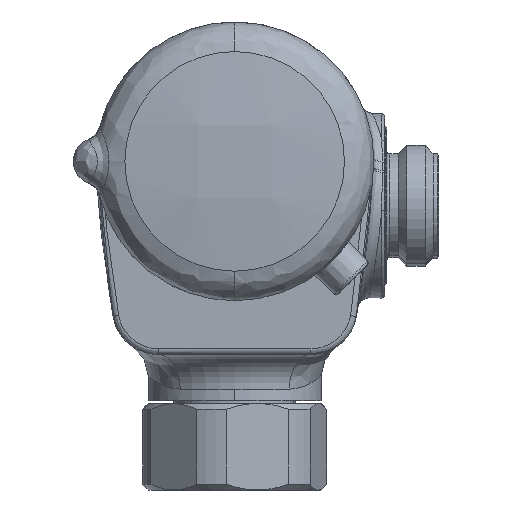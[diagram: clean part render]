
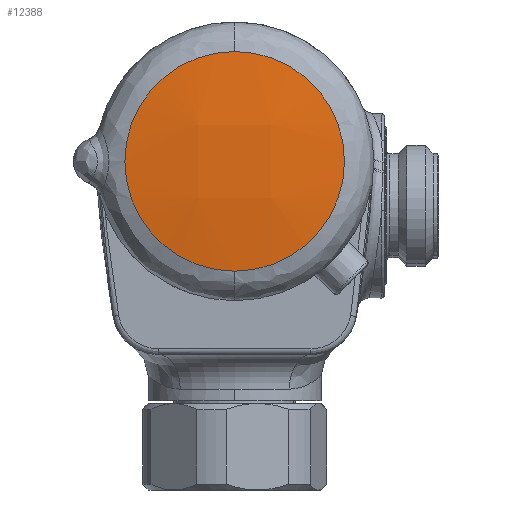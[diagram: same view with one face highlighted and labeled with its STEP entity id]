
A CAD part, left-side view. The second image highlights one B-rep face of the part: STEP entity #12388.
In plain terms, the highlighted free-form (B-spline) face has degree [3, 3] with [4, 4] control points.
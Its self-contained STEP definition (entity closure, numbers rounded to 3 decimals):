
#7 = CARTESIAN_POINT ( 'NONE',  ( -145.73, 6.493, 50.565 ) ) ;
#1073 = DIRECTION ( 'NONE',  ( 1., 0., 0. ) ) ;
#1185 = CARTESIAN_POINT ( 'NONE',  ( -141.864, 19.127, 76.393 ) ) ;
#2184 = DIRECTION ( 'NONE',  ( 0., 0., -1. ) ) ;
#2577 = AXIS2_PLACEMENT_3D ( 'NONE', #13170, #1073, #2184 ) ;
#2889 =( BOUNDED_SURFACE ( )  B_SPLINE_SURFACE ( 3, 3, ( 
 ( #8533, #8681, #10896, #9654 ),
 ( #10748, #8734, #7, #5604 ),
 ( #3359, #12272, #9980, #4392 ),
 ( #6544, #14346, #11090, #1185 ) ),
 .UNSPECIFIED., .F., .F., .T. ) 
 B_SPLINE_SURFACE_WITH_KNOTS ( ( 4, 4 ),
 ( 4, 4 ),
 ( 0., 1. ),
 ( 0., 1. ),
 .UNSPECIFIED. ) 
 GEOMETRIC_REPRESENTATION_ITEM ( )  RATIONAL_B_SPLINE_SURFACE ( (
 ( 1., 0.993, 0.993, 1.),
 ( 0.993, 0.985, 0.985, 0.993),
 ( 0.993, 0.985, 0.985, 0.993),
 ( 1., 0.993, 0.993, 1.) ) ) 
 REPRESENTATION_ITEM ( '' )  SURFACE ( )  );
#3359 = CARTESIAN_POINT ( 'NONE',  ( -143.768, -19.496, 63.552 ) ) ;
#3661 = EDGE_CURVE ( 'NONE', #12412, #10736, #6865, .T. ) ;
#4392 = CARTESIAN_POINT ( 'NONE',  ( -143.78, 19.415, 63.552 ) ) ;
#5135 = ORIENTED_EDGE ( 'NONE', *, *, #3661, .F. ) ;
#5288 = DIRECTION ( 'NONE',  ( 1., 0., 0. ) ) ;
#5604 = CARTESIAN_POINT ( 'NONE',  ( -143.786, 19.416, 50.565 ) ) ;
#6046 = AXIS2_PLACEMENT_3D ( 'NONE', #10767, #5288, #6372 ) ;
#6372 = DIRECTION ( 'NONE',  ( 0., 0., -1. ) ) ;
#6544 = CARTESIAN_POINT ( 'NONE',  ( -141.852, -19.206, 76.393 ) ) ;
#6781 = EDGE_LOOP ( 'NONE', ( #5135, #13386 ) ) ;
#6865 = CIRCLE ( 'NONE', #2577, 19.051 ) ;
#7762 = CARTESIAN_POINT ( 'NONE',  ( -143.347, 0., 37.949 ) ) ;
#8533 = CARTESIAN_POINT ( 'NONE',  ( -141.869, -19.209, 37.721 ) ) ;
#8681 = CARTESIAN_POINT ( 'NONE',  ( -143.793, -6.478, 37.721 ) ) ;
#8734 = CARTESIAN_POINT ( 'NONE',  ( -145.726, -6.575, 50.565 ) ) ;
#9654 = CARTESIAN_POINT ( 'NONE',  ( -141.881, 19.129, 37.721 ) ) ;
#9670 = FACE_OUTER_BOUND ( 'NONE', #6781, .T. ) ;
#9980 = CARTESIAN_POINT ( 'NONE',  ( -145.725, 6.493, 63.552 ) ) ;
#10736 = VERTEX_POINT ( 'NONE', #11690 ) ;
#10748 = CARTESIAN_POINT ( 'NONE',  ( -143.774, -19.497, 50.565 ) ) ;
#10767 = CARTESIAN_POINT ( 'NONE',  ( -143.347, 0., 57. ) ) ;
#10896 = CARTESIAN_POINT ( 'NONE',  ( -143.797, 6.397, 37.721 ) ) ;
#11090 = CARTESIAN_POINT ( 'NONE',  ( -143.78, 6.396, 76.393 ) ) ;
#11521 = EDGE_CURVE ( 'NONE', #10736, #12412, #11605, .T. ) ;
#11605 = CIRCLE ( 'NONE', #6046, 19.051 ) ;
#11690 = CARTESIAN_POINT ( 'NONE',  ( -143.347, 0., 76.051 ) ) ;
#12272 = CARTESIAN_POINT ( 'NONE',  ( -145.721, -6.575, 63.552 ) ) ;
#12388 = ADVANCED_FACE ( 'NONE', ( #9670 ), #2889, .T. ) ;
#12412 = VERTEX_POINT ( 'NONE', #7762 ) ;
#13170 = CARTESIAN_POINT ( 'NONE',  ( -143.347, 0., 57. ) ) ;
#13386 = ORIENTED_EDGE ( 'NONE', *, *, #11521, .F. ) ;
#14346 = CARTESIAN_POINT ( 'NONE',  ( -143.776, -6.477, 76.393 ) ) ;
